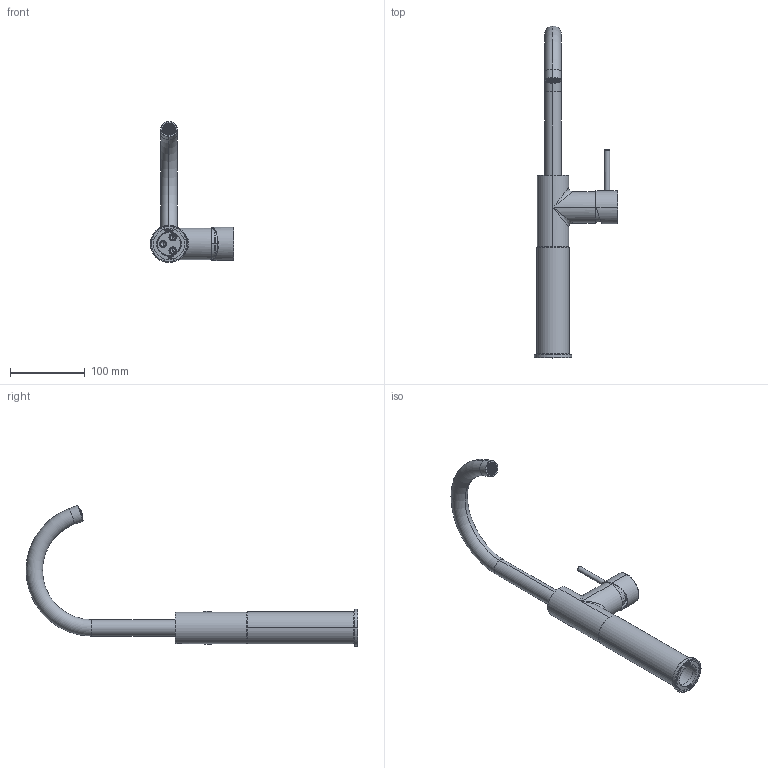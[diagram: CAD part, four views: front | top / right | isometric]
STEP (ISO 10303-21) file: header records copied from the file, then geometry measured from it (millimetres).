
FILE_DESCRIPTION((''),'2;1');
FILE_NAME('F3041_H_FILE_3D','2018-09-04T',('ivanv'),(''),'CREO PARAMETRIC BY PTC INC, 2016260','CREO PARAMETRIC BY PTC INC, 2016260','');
FILE_SCHEMA(('CONFIG_CONTROL_DESIGN'));
Length unit declared in the file: millimetre
Products named in the file (1): F3041_H_FILE_3D
Bounding box: 111.5 x 445.12 x 189.18 mm (x, y, z)
Volume: 249180.5 mm3; surface area: 138942.5 mm2
Topology: 3 solids, 4 shells, 3553 faces, 10169 edges, 6705 vertices
Faces by surface type: plane 2346, torus 437, cylinder 364, bspline 220, cone 116, extrusion 58, sphere 12
Entity records: 146989 total; most frequent: CARTESIAN_POINT 60084, ORIENTED_EDGE 20290, DIRECTION 14803, EDGE_CURVE 10145, VERTEX_POINT 6705, AXIS2_PLACEMENT_3D 5026, VECTOR 4751, LINE 4693
